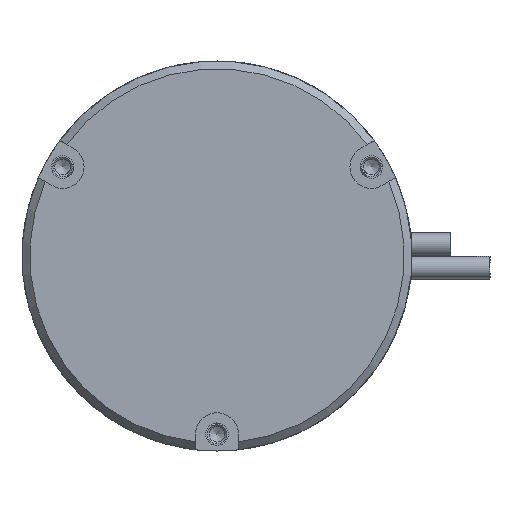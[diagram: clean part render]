
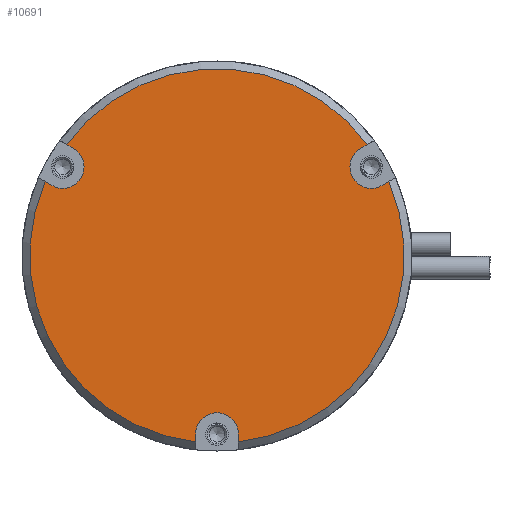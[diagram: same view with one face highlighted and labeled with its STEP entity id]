
A CAD part, left-side view. The second image highlights one B-rep face of the part: STEP entity #10691.
In plain terms, the highlighted planar face has unit normal (-1, 0, 0) as drawn and (0, 0, -1) by its records, which use the part's own axes.
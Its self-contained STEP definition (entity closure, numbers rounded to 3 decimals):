
#9652=CARTESIAN_POINT('',(19.273,-14.303,0.0));
#9653=VERTEX_POINT('',#9652);
#9669=CARTESIAN_POINT('',(18.414,-13.807,0.0));
#9670=VERTEX_POINT('',#9669);
#9671=CARTESIAN_POINT('',(18.414,-13.807,0.0));
#9672=DIRECTION('',(0.866,-0.5,0.0));
#9673=VECTOR('',#9672,0.992);
#9674=LINE('',#9671,#9673);
#9675=EDGE_CURVE('',#9670,#9653,#9674,.T.);
#9725=CARTESIAN_POINT('',(21.164,-9.043,0.0));
#9726=VERTEX_POINT('',#9725);
#9733=CARTESIAN_POINT('',(22.023,-9.539,0.));
#9734=VERTEX_POINT('',#9733);
#9735=CARTESIAN_POINT('',(22.023,-9.539,0.));
#9736=DIRECTION('',(-0.866,0.5,0.));
#9737=VECTOR('',#9736,0.992);
#9738=LINE('',#9735,#9737);
#9739=EDGE_CURVE('',#9734,#9726,#9738,.T.);
#9762=CARTESIAN_POINT('',(-22.023,-9.539,0.0));
#9763=VERTEX_POINT('',#9762);
#9779=CARTESIAN_POINT('',(-21.164,-9.043,0.0));
#9780=VERTEX_POINT('',#9779);
#9781=CARTESIAN_POINT('',(-21.164,-9.043,0.0));
#9782=DIRECTION('',(-0.866,-0.5,0.0));
#9783=VECTOR('',#9782,0.992);
#9784=LINE('',#9781,#9783);
#9785=EDGE_CURVE('',#9780,#9763,#9784,.T.);
#9819=CARTESIAN_POINT('',(-19.273,-14.303,0.0));
#9820=VERTEX_POINT('',#9819);
#9850=CARTESIAN_POINT('',(-18.414,-13.807,0.0));
#9851=VERTEX_POINT('',#9850);
#9858=CARTESIAN_POINT('',(-19.273,-14.303,0.0));
#9859=DIRECTION('',(0.866,0.5,0.0));
#9860=VECTOR('',#9859,0.992);
#9861=LINE('',#9858,#9860);
#9862=EDGE_CURVE('',#9820,#9851,#9861,.T.);
#9917=CARTESIAN_POINT('',(-2.75,23.842,0.0));
#9918=VERTEX_POINT('',#9917);
#9932=CARTESIAN_POINT('',(0.0,0.0,0.0));
#9933=DIRECTION('',(0.0,0.0,1.0));
#9934=DIRECTION('',(-1.0,0.0,0.0));
#9935=AXIS2_PLACEMENT_3D('',#9932,#9933,#9934);
#9936=CIRCLE('',#9935,24.0);
#9937=EDGE_CURVE('',#9918,#9763,#9936,.T.);
#9991=CARTESIAN_POINT('',(0.0,0.0,0.0));
#9992=DIRECTION('',(0.0,0.0,1.0));
#9993=DIRECTION('',(-1.0,0.0,0.0));
#9994=AXIS2_PLACEMENT_3D('',#9991,#9992,#9993);
#9995=CIRCLE('',#9994,24.0);
#9996=EDGE_CURVE('',#9820,#9653,#9995,.T.);
#10080=CARTESIAN_POINT('',(2.75,23.842,0.0));
#10081=VERTEX_POINT('',#10080);
#10095=CARTESIAN_POINT('',(2.75,22.85,0.0));
#10096=VERTEX_POINT('',#10095);
#10097=CARTESIAN_POINT('',(2.75,22.85,0.0));
#10098=DIRECTION('',(0.0,1.0,0.0));
#10099=VECTOR('',#10098,0.992);
#10100=LINE('',#10097,#10099);
#10101=EDGE_CURVE('',#10096,#10081,#10100,.T.);
#10136=CARTESIAN_POINT('',(-2.75,22.85,0.0));
#10137=VERTEX_POINT('',#10136);
#10144=CARTESIAN_POINT('',(-2.75,23.842,0.0));
#10145=DIRECTION('',(0.0,-1.0,0.0));
#10146=VECTOR('',#10145,0.992);
#10147=LINE('',#10144,#10146);
#10148=EDGE_CURVE('',#9918,#10137,#10147,.T.);
#10159=CARTESIAN_POINT('',(0.0,0.0,0.0));
#10160=DIRECTION('',(0.0,0.0,1.0));
#10161=DIRECTION('',(-1.0,0.0,0.0));
#10162=AXIS2_PLACEMENT_3D('',#10159,#10160,#10161);
#10163=CIRCLE('',#10162,24.0);
#10164=EDGE_CURVE('',#9734,#10081,#10163,.T.);
#10483=CARTESIAN_POINT('',(19.789,-11.425,0.0));
#10484=DIRECTION('',(0.0,0.0,1.0));
#10485=DIRECTION('',(0.5,0.866,0.0));
#10486=AXIS2_PLACEMENT_3D('',#10483,#10484,#10485);
#10487=CIRCLE('',#10486,2.75);
#10488=EDGE_CURVE('',#9726,#9670,#10487,.T.);
#10555=CARTESIAN_POINT('',(-19.789,-11.425,0.0));
#10556=DIRECTION('',(0.0,0.0,1.0));
#10557=DIRECTION('',(0.5,-0.866,0.0));
#10558=AXIS2_PLACEMENT_3D('',#10555,#10556,#10557);
#10559=CIRCLE('',#10558,2.75);
#10560=EDGE_CURVE('',#9851,#9780,#10559,.T.);
#10627=CARTESIAN_POINT('',(0.0,22.85,0.0));
#10628=DIRECTION('',(0.0,0.0,1.0));
#10629=DIRECTION('',(-1.0,0.0,0.0));
#10630=AXIS2_PLACEMENT_3D('',#10627,#10628,#10629);
#10631=CIRCLE('',#10630,2.75);
#10632=EDGE_CURVE('',#10137,#10096,#10631,.T.);
#10672=CARTESIAN_POINT('',(0.0,0.0,0.0));
#10673=DIRECTION('',(0.0,0.0,-1.0));
#10674=DIRECTION('',(-1.0,0.0,0.0));
#10675=AXIS2_PLACEMENT_3D('',#10672,#10673,#10674);
#10676=PLANE('',#10675);
#10677=ORIENTED_EDGE('',*,*,#9675,.T.);
#10678=ORIENTED_EDGE('',*,*,#9996,.F.);
#10679=ORIENTED_EDGE('',*,*,#9862,.T.);
#10680=ORIENTED_EDGE('',*,*,#10560,.T.);
#10681=ORIENTED_EDGE('',*,*,#9785,.T.);
#10682=ORIENTED_EDGE('',*,*,#9937,.F.);
#10683=ORIENTED_EDGE('',*,*,#10148,.T.);
#10684=ORIENTED_EDGE('',*,*,#10632,.T.);
#10685=ORIENTED_EDGE('',*,*,#10101,.T.);
#10686=ORIENTED_EDGE('',*,*,#10164,.F.);
#10687=ORIENTED_EDGE('',*,*,#9739,.T.);
#10688=ORIENTED_EDGE('',*,*,#10488,.T.);
#10689=EDGE_LOOP('',(#10677,#10678,#10679,#10680,#10681,#10682,#10683,#10684,#10685,#10686,#10687,#10688));
#10690=FACE_OUTER_BOUND('',#10689,.T.);
#10691=ADVANCED_FACE('',(#10690),#10676,.T.);
